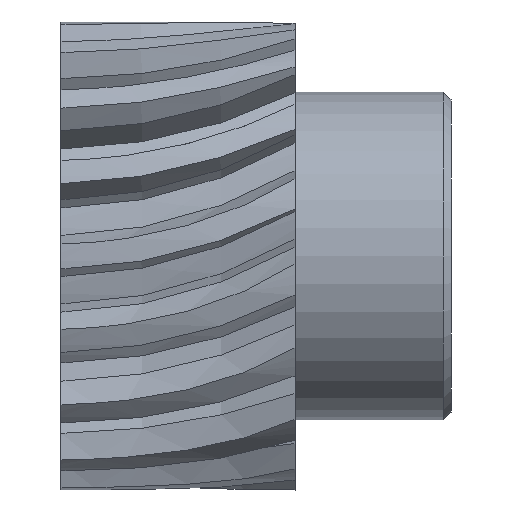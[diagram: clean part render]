
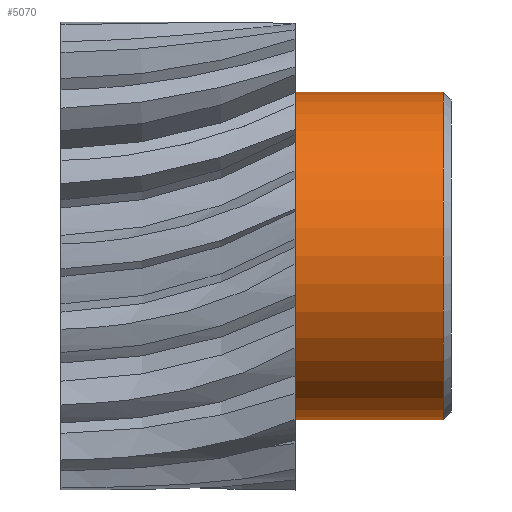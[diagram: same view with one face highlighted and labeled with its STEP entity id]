
A CAD part, front view. The second image highlights one B-rep face of the part: STEP entity #5070.
In plain terms, the highlighted cylindrical face has radius 21 mm (diameter 42 mm), a full revolution.
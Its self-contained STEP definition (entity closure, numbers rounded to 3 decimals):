
#100=CYLINDRICAL_SURFACE('',#5342,21.);
#155=CIRCLE('',#5340,21.);
#157=CIRCLE('',#5343,21.);
#417=FACE_BOUND('',#867,.T.);
#583=FACE_OUTER_BOUND('',#866,.T.);
#866=EDGE_LOOP('',(#4260));
#867=EDGE_LOOP('',(#4261));
#2400=VERTEX_POINT('',#8249);
#2402=VERTEX_POINT('',#8254);
#3056=EDGE_CURVE('',#2400,#2400,#155,.T.);
#3058=EDGE_CURVE('',#2402,#2402,#157,.T.);
#4260=ORIENTED_EDGE('',*,*,#3058,.F.);
#4261=ORIENTED_EDGE('',*,*,#3056,.F.);
#5070=ADVANCED_FACE('',(#583,#417),#100,.T.);
#5340=AXIS2_PLACEMENT_3D('',#8250,#6235,#6236);
#5342=AXIS2_PLACEMENT_3D('',#8253,#6239,#6240);
#5343=AXIS2_PLACEMENT_3D('',#8255,#6241,#6242);
#6235=DIRECTION('center_axis',(1.,0.,0.));
#6236=DIRECTION('ref_axis',(0.,0.,1.));
#6239=DIRECTION('center_axis',(1.,0.,0.));
#6240=DIRECTION('ref_axis',(0.,0.,1.));
#6241=DIRECTION('center_axis',(-1.,0.,0.));
#6242=DIRECTION('ref_axis',(0.,0.,1.));
#8249=CARTESIAN_POINT('',(49.,0.,-21.));
#8250=CARTESIAN_POINT('Origin',(49.,0.,0.));
#8253=CARTESIAN_POINT('Origin',(30.,0.,0.));
#8254=CARTESIAN_POINT('',(30.,0.,-21.));
#8255=CARTESIAN_POINT('Origin',(30.,0.,0.));
